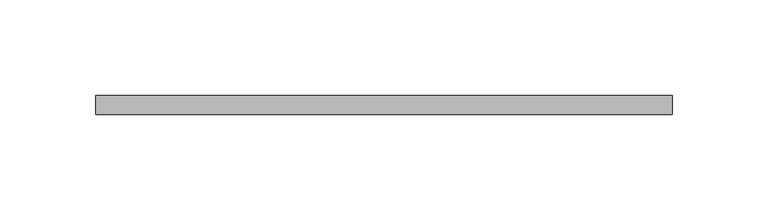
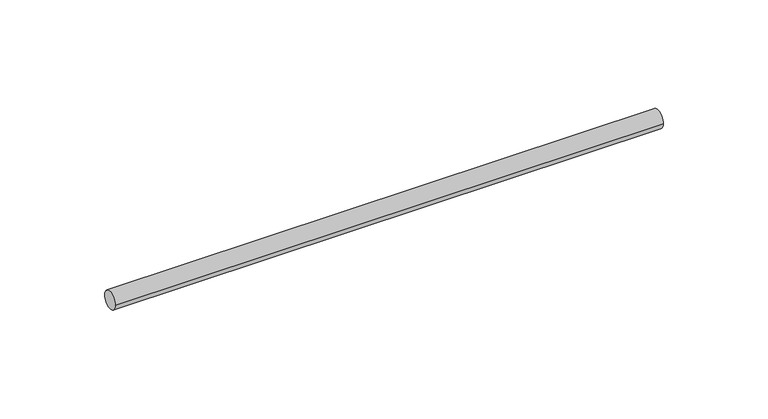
"""IFC4 building model written with IfcOpenShell, lengths in millimetres: valve geometry, Superfix Threaded Rod (used for clamps) : Threaded Rod  Extra  - 1000 mm (used for clamps)."""

import ifcopenshell
import ifcopenshell.guid

model = None  # the IFC model being written
_history = None  # IfcOwnerHistory: only IFC2X3 demands one
_inside = {}  # id of a spatial element -> (the spatial element, [elements in it])
_under = {}  # id of a project, library or spatial element -> (it, [spatial elements below it])
_declared = {}  # id of a project -> (the project, [libraries it declares])
_typed = {}  # id of a type object -> (the type object, [elements of that type])
_made_of = {}  # id of a material, layer set ... -> (it, [elements and type objects made of it])


def new_model(schema):
    """Start an empty IFC model of exactly this schema.

    Asked for "IFC4X3", IfcOpenShell would pick the latest addendum, in which some entities
    have other attributes; the version numbers below select the first issue.
    IFC2X3 requires an IfcOwnerHistory on every rooted entity: one is made here for all.
    """
    global model, _history
    if schema == "IFC4X3":
        model = ifcopenshell.file(schema_version=(4, 3, 0, 0))
    else:
        model = ifcopenshell.file(schema=schema)
    _inside.clear()
    _under.clear()
    _declared.clear()
    _typed.clear()
    _made_of.clear()
    _history = None
    if model.schema == "IFC2X3":
        org = make("IfcOrganization", Name="unknown")
        user = make(
            "IfcPersonAndOrganization",
            ThePerson=make("IfcPerson", FamilyName="unknown"),
            TheOrganization=org,
        )
        app = make(
            "IfcApplication",
            ApplicationDeveloper=org,
            Version="unknown",
            ApplicationFullName="unknown",
            ApplicationIdentifier="unknown",
        )
        _history = make(
            "IfcOwnerHistory",
            OwningUser=user,
            OwningApplication=app,
            ChangeAction="ADDED",
            CreationDate=0,
        )
    return model


def make(cls, **values):
    """One entity of the class cls with the attributes given. An attribute that is None is left unset."""
    return model.create_entity(
        cls, **{name: value for name, value in values.items() if value is not None}
    )


def rooted(cls, **values):
    """An entity with a GlobalId (a new one), such as an element, a storey or a relation."""
    return make(cls, GlobalId=ifcopenshell.guid.new(), OwnerHistory=_history, **values)


def si_unit(unit_type, name, prefix=None):
    """IfcSIUnit, for example si_unit("LENGTHUNIT", "METRE", prefix="MILLI")."""
    return make("IfcSIUnit", UnitType=unit_type, Prefix=prefix, Name=name)


def assignment(units):
    """IfcUnitAssignment: the units of a project."""
    return None if units is None else make("IfcUnitAssignment", Units=units)


def point(xyz):
    """IfcCartesianPoint."""
    return None if xyz is None else make("IfcCartesianPoint", Coordinates=xyz)


def direction(xyz):
    """IfcDirection."""
    return None if xyz is None else make("IfcDirection", DirectionRatios=xyz)


def frame(location, z_axis=None, x_axis=None):
    """IfcAxis2Placement3D, a coordinate frame: its origin and axes. An axis left out is left unset."""
    return make(
        "IfcAxis2Placement3D",
        Location=point(location),
        Axis=direction(z_axis),
        RefDirection=direction(x_axis),
    )


def frame_2d(location, x_axis=None):
    """IfcAxis2Placement2D, a coordinate frame in the plane: its origin and x axis."""
    return make(
        "IfcAxis2Placement2D", Location=point(location), RefDirection=direction(x_axis)
    )


def origin():
    """The frame at (0, 0, 0) with its axes left unset."""
    return frame((0.0, 0.0, 0.0))


def origin_2d():
    """The frame at (0, 0) in the plane with its x axis left unset."""
    return frame_2d((0.0, 0.0))


def place(relative_to, where):
    """IfcLocalPlacement: puts the frame where relative to a parent placement (None: the world)."""
    return make(
        "IfcLocalPlacement", PlacementRelTo=relative_to, RelativePlacement=where
    )


def context(
    kind, dimensions, precision=None, world=None, true_north=None, identifier=None
):
    """IfcGeometricRepresentationContext, for example the 3D "Model" context."""
    return make(
        "IfcGeometricRepresentationContext",
        ContextIdentifier=identifier,
        ContextType=kind,
        CoordinateSpaceDimension=dimensions,
        Precision=precision,
        WorldCoordinateSystem=world,
        TrueNorth=true_north,
    )


def project(units=None, contexts=None):
    """IfcProject with its units and contexts."""
    return rooted(
        "IfcProject",
        Name="project",
        RepresentationContexts=contexts,
        UnitsInContext=assignment(units),
    )


def spatial(cls, under=None, at=None, **own):
    """A site, building, storey or space (cls), placed at a placement, below another one or the project."""
    s = rooted(cls, ObjectPlacement=at, **own)
    if under is not None:
        _under.setdefault(under.id(), (under, []))[1].append(s)
    return s


def circle_curve(where, radius):
    """IfcCircle in the frame where."""
    return make("IfcCircle", Position=where, Radius=radius)


def trimmed(basis, trim1, trim2, sense, master):
    """IfcTrimmedCurve: the piece of a basis curve between two trims."""
    return make(
        "IfcTrimmedCurve",
        BasisCurve=basis,
        Trim1=trim1,
        Trim2=trim2,
        SenseAgreement=sense,
        MasterRepresentation=master,
    )


def segment(curve, same_sense, transition):
    """IfcCompositeCurveSegment."""
    return make(
        "IfcCompositeCurveSegment",
        Transition=transition,
        SameSense=same_sense,
        ParentCurve=curve,
    )


def composite_curve(segments, self_intersect=None):
    """IfcCompositeCurve: segments joined end to end."""
    return make("IfcCompositeCurve", Segments=segments, SelfIntersect=self_intersect)


def outline(outer, holes=None, kind="AREA"):
    """IfcArbitraryClosedProfileDef: a profile drawn as a closed curve; with holes, ...WithVoids."""
    if holes is None:
        return make("IfcArbitraryClosedProfileDef", ProfileType=kind, OuterCurve=outer)
    return make(
        "IfcArbitraryProfileDefWithVoids",
        ProfileType=kind,
        OuterCurve=outer,
        InnerCurves=holes,
    )


def extrude(swept, where, along, depth):
    """IfcExtrudedAreaSolid: the profile swept, set in the frame where, extruded along a direction by depth."""
    return make(
        "IfcExtrudedAreaSolid",
        SweptArea=swept,
        Position=where,
        ExtrudedDirection=direction(along),
        Depth=depth,
    )


def shape(context_of_items, identifier, shape_type, items):
    """IfcShapeRepresentation: the items that make up one representation, for example the "Body"."""
    return make(
        "IfcShapeRepresentation",
        ContextOfItems=context_of_items,
        RepresentationIdentifier=identifier,
        RepresentationType=shape_type,
        Items=items,
    )


def source(mapping_origin, context_of_items, identifier, shape_type, items):
    """IfcRepresentationMap: a shape defined once, which mapped items show again and again."""
    return make(
        "IfcRepresentationMap",
        MappingOrigin=mapping_origin,
        MappedRepresentation=shape(context_of_items, identifier, shape_type, items),
    )


def transform(
    local_origin,
    x_axis=None,
    y_axis=None,
    z_axis=None,
    scale=None,
    scale2=None,
    scale3=None,
    uniform=True,
):
    """IfcCartesianTransformationOperator3D, or its non-uniform kind. x_axis, y_axis, z_axis: its Axis1, 2, 3."""
    if uniform:
        return make(
            "IfcCartesianTransformationOperator3D",
            Axis1=direction(x_axis),
            Axis2=direction(y_axis),
            LocalOrigin=point(local_origin),
            Scale=scale,
            Axis3=direction(z_axis),
        )
    return make(
        "IfcCartesianTransformationOperator3DnonUniform",
        Axis1=direction(x_axis),
        Axis2=direction(y_axis),
        LocalOrigin=point(local_origin),
        Scale=scale,
        Axis3=direction(z_axis),
        Scale2=scale2,
        Scale3=scale3,
    )


def mapped(mapping_source, mapping_target):
    """IfcMappedItem: shows the shape of a source again, moved by a transform."""
    return make(
        "IfcMappedItem", MappingSource=mapping_source, MappingTarget=mapping_target
    )


def made_of(thing, what):
    """Note that an element or type object is made of a material, layer set ...; save() writes the relation."""
    if what is not None:
        _made_of.setdefault(what.id(), (what, []))[1].append(thing)
    return thing


def element(
    cls,
    number,
    at=None,
    inside=None,
    cuts=None,
    type_object=None,
    material=None,
    context=None,
    identifier="Body",
    shape_type=None,
    held_by="IfcProductDefinitionShape",
    body=None,
    shapes=None,
    **own,
):
    """One element of the class cls, such as IfcWall. Its Tag is "e" and its number.

    at: its placement. inside: the storey or other place that contains it. cuts: it is an
    opening in that element (IfcRelVoidsElement). A single representation is given by context,
    identifier, shape_type and body (its items); several are given by shapes. held_by: the class
    of the entity that holds the representations. save() writes the other relations.
    """
    e = rooted(cls, Tag="e%d" % number, ObjectPlacement=at, **own)
    if body is not None:
        shapes = [shape(context, identifier, shape_type, body)]
    if shapes is not None:
        e.Representation = make(held_by, Representations=shapes)
    if inside is not None:
        _inside.setdefault(inside.id(), (inside, []))[1].append(e)
    if cuts is not None:
        rooted(
            "IfcRelVoidsElement", RelatingBuildingElement=cuts, RelatedOpeningElement=e
        )
    if type_object is not None:
        _typed.setdefault(type_object.id(), (type_object, []))[1].append(e)
    return made_of(e, material)


def aggregate(whole, parts):
    """IfcRelAggregates: a whole, such as a stair, and the parts it consists of."""
    return rooted("IfcRelAggregates", RelatingObject=whole, RelatedObjects=parts)


def save(model, path):
    """Write the relations noted so far, then the file.

    IfcRelAggregates (storeys below a building ...), IfcRelContainedInSpatialStructure (elements
    in a storey), IfcRelDefinesByType, IfcRelAssociatesMaterial and IfcRelDeclares: one each for
    every whole, place, type object, material and project.
    """
    for whole, parts in _under.values():
        aggregate(whole, parts)
    for where, things in _inside.values():
        rooted(
            "IfcRelContainedInSpatialStructure",
            RelatedElements=things,
            RelatingStructure=where,
        )
    for kind, things in _typed.values():
        rooted("IfcRelDefinesByType", RelatedObjects=things, RelatingType=kind)
    for what, things in _made_of.values():
        rooted("IfcRelAssociatesMaterial", RelatedObjects=things, RelatingMaterial=what)
    for by, libraries in _declared.values():
        rooted("IfcRelDeclares", RelatingContext=by, RelatedDefinitions=libraries)
    model.write(path)


def valve_831f7485(model_context):
    return source(origin(), model_context, "Body", "SweptSolid", [
        extrude(outline(composite_curve([segment(trimmed(circle_curve(origin_2d(), 5.0), [point((-5.0, 0.0))], [point((5.0, 0.0))], False, "CARTESIAN"), True, "CONTINUOUS"), segment(trimmed(circle_curve(origin_2d(), 5.0), [point((5.0, 0.0))], [point((-5.0, 0.0))], False, "CARTESIAN"), True, "CONTINUOUS")], self_intersect=False)), frame((-10.0, 0.0, 0.0), z_axis=(1.0, 0.0, 0.0), x_axis=(0.0, 1.0, 0.0)), (0.0, 0.0, 1.0), 302.0002332),
    ])


if __name__ == "__main__":
    model = new_model("IFC4")
    model_context = context("Model", 3, world=origin())
    ifc_project = project(units=[si_unit("LENGTHUNIT", "METRE", prefix="MILLI")], contexts=[model_context])
    site = spatial("IfcSite", under=ifc_project)
    building = spatial("IfcBuilding", under=site)
    placement = place(None, origin())
    valve_shape = valve_831f7485(model_context)
    element("IfcValve", 1, ObjectType="Superfix Threaded Rod (used for clamps) : Threaded Rod  Extra  - 1000 mm (used for clamps)", at=placement, inside=building, context=model_context, shape_type="MappedRepresentation", body=[
        mapped(valve_shape, transform((0.0, 0.0, 0.0), x_axis=(1.0, 0.0, 0.0), y_axis=(0.0, 1.0, 0.0), z_axis=(0.0, 0.0, 1.0))),
    ])
    save(model, "model.ifc")
